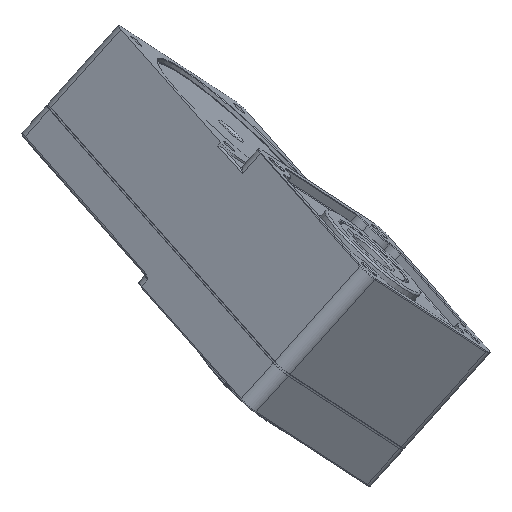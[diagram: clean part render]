
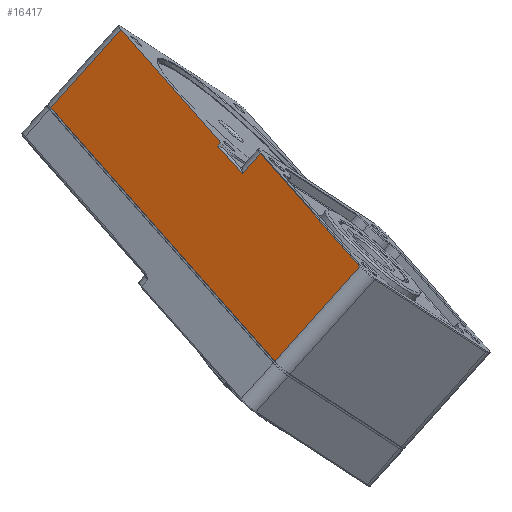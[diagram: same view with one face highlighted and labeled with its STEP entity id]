
A CAD part, isometric view. The second image highlights one B-rep face of the part: STEP entity #16417.
In plain terms, the highlighted planar face has unit normal (-0.676, 0.113, 0.728).
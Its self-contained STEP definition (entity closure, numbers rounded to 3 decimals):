
#3064=FACE_OUTER_BOUND('',#4067,.T.);
#4067=EDGE_LOOP('',(#12482,#12483,#12484,#12485,#12486,#12487,#12488,#12489));
#5197=LINE('',#26683,#6304);
#5206=LINE('',#26735,#6313);
#5220=LINE('',#26872,#6327);
#5230=LINE('',#27003,#6337);
#5231=LINE('',#27005,#6338);
#5232=LINE('',#27007,#6339);
#5233=LINE('',#27009,#6340);
#5234=LINE('',#27010,#6341);
#6304=VECTOR('',#20886,10.);
#6313=VECTOR('',#20943,10.);
#6327=VECTOR('',#21093,10.);
#6337=VECTOR('',#21281,10.);
#6338=VECTOR('',#21284,10.);
#6339=VECTOR('',#21285,10.);
#6340=VECTOR('',#21286,10.);
#6341=VECTOR('',#21287,10.);
#7620=VERTEX_POINT('',#26680);
#7621=VERTEX_POINT('',#26682);
#7639=VERTEX_POINT('',#26732);
#7640=VERTEX_POINT('',#26734);
#7694=VERTEX_POINT('',#26866);
#7695=VERTEX_POINT('',#26870);
#7728=VERTEX_POINT('',#27006);
#7729=VERTEX_POINT('',#27008);
#9348=EDGE_CURVE('',#7621,#7620,#5197,.T.);
#9372=EDGE_CURVE('',#7639,#7640,#5206,.T.);
#9440=EDGE_CURVE('',#7695,#7694,#5220,.T.);
#9506=EDGE_CURVE('',#7621,#7639,#5230,.T.);
#9507=EDGE_CURVE('',#7694,#7620,#5231,.T.);
#9508=EDGE_CURVE('',#7728,#7695,#5232,.T.);
#9509=EDGE_CURVE('',#7729,#7728,#5233,.T.);
#9510=EDGE_CURVE('',#7729,#7640,#5234,.T.);
#12482=ORIENTED_EDGE('',*,*,#9348,.T.);
#12483=ORIENTED_EDGE('',*,*,#9507,.F.);
#12484=ORIENTED_EDGE('',*,*,#9440,.F.);
#12485=ORIENTED_EDGE('',*,*,#9508,.F.);
#12486=ORIENTED_EDGE('',*,*,#9509,.F.);
#12487=ORIENTED_EDGE('',*,*,#9510,.T.);
#12488=ORIENTED_EDGE('',*,*,#9372,.F.);
#12489=ORIENTED_EDGE('',*,*,#9506,.F.);
#15916=PLANE('',#17914);
#16417=ADVANCED_FACE('',(#3064),#15916,.T.);
#17914=AXIS2_PLACEMENT_3D('',#27004,#21282,#21283);
#20886=DIRECTION('',(-0.254,-0.963,-0.087));
#20943=DIRECTION('',(-0.254,-0.963,-0.087));
#21093=DIRECTION('',(-0.254,-0.963,-0.087));
#21281=DIRECTION('',(0.691,-0.244,0.68));
#21282=DIRECTION('center_axis',(-0.676,0.113,0.728));
#21283=DIRECTION('ref_axis',(-0.254,-0.963,-0.087));
#21284=DIRECTION('',(-0.691,0.244,-0.68));
#21285=DIRECTION('',(0.691,-0.244,0.68));
#21286=DIRECTION('',(-0.254,-0.963,-0.087));
#21287=DIRECTION('',(0.691,-0.244,0.68));
#26680=CARTESIAN_POINT('',(-101.171,-358.516,-76.404));
#26682=CARTESIAN_POINT('',(-49.068,-161.044,-58.646));
#26683=CARTESIAN_POINT('',(-62.043,-210.218,-63.068));
#26732=CARTESIAN_POINT('',(-15.397,-172.907,-25.522));
#26734=CARTESIAN_POINT('',(-38.653,-261.047,-33.448));
#26735=CARTESIAN_POINT('',(-20.385,-191.811,-27.222));
#26866=CARTESIAN_POINT('',(-60.24,-372.936,-36.138));
#26870=CARTESIAN_POINT('',(-37.112,-285.278,-28.255));
#26872=CARTESIAN_POINT('',(-27.581,-249.155,-25.007));
#27003=CARTESIAN_POINT('',(-49.414,-160.922,-58.986));
#27004=CARTESIAN_POINT('Origin',(-47.762,-154.661,-58.423));
#27005=CARTESIAN_POINT('',(-101.517,-358.394,-76.744));
#27006=CARTESIAN_POINT('',(-45.754,-282.233,-36.757));
#27007=CARTESIAN_POINT('',(-61.726,-276.606,-52.469));
#27008=CARTESIAN_POINT('',(-40.036,-260.56,-34.808));
#27009=CARTESIAN_POINT('',(-28.98,-218.657,-31.04));
#27010=CARTESIAN_POINT('',(-56.007,-254.933,-50.52));
